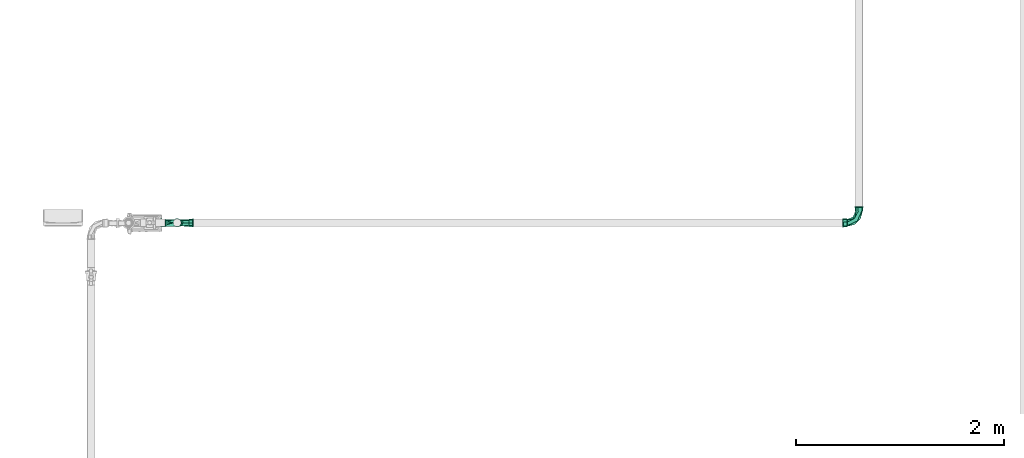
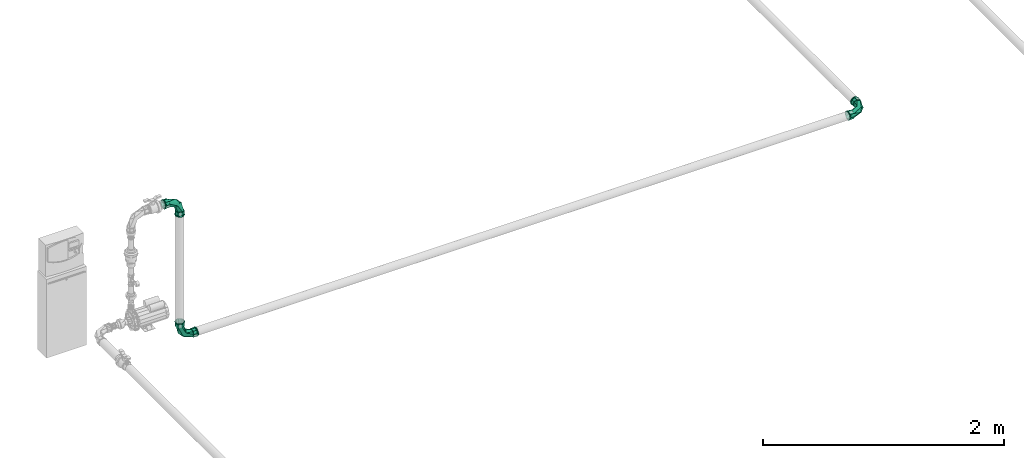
# One storey, part 72 of 166: 3 flow fittings.
"""IFC2X3 building model written with IfcOpenShell, lengths in metres."""

from ifc_helpers import new_model, entity, si_unit, converted_unit, direction, frame, origin, place, context, subcontext, project, spatial, faceted_brep, source, transform, mapped, material, type_object, type_shapes, element, save


model = new_model("IFC2X3")

# Units and contexts
model_context = context("Model", 3, precision=1e-05, world=origin(), true_north=direction((6.123233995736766e-17, 1.0)))
body_context = subcontext(model_context, "Body", "Model", "MODEL_VIEW")
ifc_project = project(units=[si_unit("LENGTHUNIT", "METRE"), converted_unit("PLANEANGLEUNIT", "DEGREE", entity("IfcPlaneAngleMeasure", 0.017453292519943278), si_unit("PLANEANGLEUNIT", "RADIAN"), dimensions=[0, 0, 0, 0, 0, 0, 0]), si_unit("AREAUNIT", "SQUARE_METRE")], contexts=[model_context])

# Site, building, storey
site_placement = place(None, origin())
site = spatial("IfcSite", under=ifc_project, at=site_placement, Name="Default", CompositionType="ELEMENT")
building_placement = place(site_placement, origin())
building = spatial("IfcBuilding", under=site, at=building_placement, Name="CASA DE ACOLHIDA PARA IDOSOS", CompositionType="ELEMENT")
storey_placement = place(building_placement, frame((0.0, 0.0, -1.7499999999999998)))
storey = spatial("IfcBuildingStorey", under=building, at=storey_placement, Name="IMPLANTAÇÃO DRENAGEM", CompositionType="ELEMENT", Elevation=-1.7499999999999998)

# Flow fittings
ifc_material = material(Name="PVC Marrom")
pipe_fitting_type = type_object("IfcPipeFittingType", Name="AF_Soldavel_Curva 45_90:Standard", PredefinedType="NOTDEFINED", material=ifc_material)
shared_shape = source(origin(), body_context, "Body", "Brep", [
    faceted_brep([(-0.1595599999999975, -0.01112921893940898, -0.041534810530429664), (-0.1595599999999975, -0.009705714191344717, -0.036222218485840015), (-0.1595599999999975, 0.00970571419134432, -0.03622221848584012), (-0.1595599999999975, -0.03723909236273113, -0.02149999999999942), (-0.1595599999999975, 0.011129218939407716, -0.041534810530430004), (-0.1595599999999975, -0.03247595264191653, -0.01874999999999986), (-0.1595599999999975, -0.037500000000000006, 0.0), (-0.1595599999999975, -0.043000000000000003, 0.0), (-0.1595599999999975, -0.032475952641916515, 0.018749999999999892), (-0.1595599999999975, -0.03723909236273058, 0.021499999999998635), (-0.1595599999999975, -0.009705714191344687, 0.03622221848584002), (-0.1595599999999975, -0.011129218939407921, 0.04153481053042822), (-0.1595599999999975, 0.00970571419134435, 0.03622221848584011), (-0.1595599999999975, 0.011129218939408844, 0.041534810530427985), (-0.1595599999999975, 0.03247595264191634, 0.018750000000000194), (-0.1595599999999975, 0.03723909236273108, 0.021499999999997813), (-0.1595599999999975, 0.043000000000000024, 0.0), (-0.1595599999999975, 0.037500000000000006, 0.0), (-0.1595599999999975, 0.03723909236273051, -0.021500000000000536), (-0.1595599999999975, 0.03247595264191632, -0.01875000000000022), (-0.1512599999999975, 0.043000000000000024, 0.0), (-0.1512599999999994, 0.03293946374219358, 0.027640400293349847), (-0.15126000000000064, 0.007465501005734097, 0.04234697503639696), (-0.1512599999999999, -0.032941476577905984, 0.027638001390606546), (-0.1512599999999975, -0.043000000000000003, 0.0), (-0.1512599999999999, -0.012737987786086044, 0.03499248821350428), (-0.15125999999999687, -0.03294147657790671, -0.027638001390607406), (-0.15125999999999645, -0.007468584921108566, -0.04234643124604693), (-0.1512599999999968, 0.03293946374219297, -0.027640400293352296), (-0.15125999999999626, 0.012735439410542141, -0.03499341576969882), (-0.14726000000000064, 0.006943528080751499, 0.03939273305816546), (-0.14725999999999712, -0.04, 0.0), (-0.14725999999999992, -0.0306445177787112, 0.02570823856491), (-0.14726000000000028, -0.01185049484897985, 0.03255048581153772), (-0.14725999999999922, 0.03064099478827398, 0.025712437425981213), (-0.14725999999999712, 0.04000000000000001, 0.0), (-0.14725999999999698, 0.030640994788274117, -0.025712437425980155), (-0.14725999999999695, 0.011846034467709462, -0.03255210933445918), (-0.14725999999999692, -0.030644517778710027, -0.02570823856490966), (-0.1472599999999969, -0.006948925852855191, -0.039391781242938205), (-0.11525999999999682, 0.04000000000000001, 0.0), (-0.1152599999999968, 0.03064034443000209, 0.025713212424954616), (-0.11525999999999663, 0.006941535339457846, 0.039393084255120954), (-0.1152599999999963, -0.030646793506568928, 0.025705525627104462), (-0.11525999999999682, -0.039999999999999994, 0.0), (-0.11525999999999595, -0.03064679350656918, -0.025705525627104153), (-0.11525999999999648, -0.006951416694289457, -0.03939134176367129), (-0.11525999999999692, 0.030640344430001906, -0.02571321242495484), (-0.11275999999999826, 0.02681594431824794, -0.022492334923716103), (-0.11275999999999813, -0.00607384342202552, -0.034468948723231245), (-0.1127599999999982, 0.03500000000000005, 0.0), (-0.1127599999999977, -0.026810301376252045, -0.02249906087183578), (-0.11275999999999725, -0.03500000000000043, 0.0), (-0.11276000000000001, -0.026810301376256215, 0.022499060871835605), (-0.11275999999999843, 0.0060824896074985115, 0.034467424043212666), (-0.11275999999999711, 0.026815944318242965, 0.022492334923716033), (-0.038879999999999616, -0.015203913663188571, 0.0), (-0.017106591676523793, 0.017106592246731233, 0.026797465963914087), (-0.006082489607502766, 0.11275999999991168, 0.0344674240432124), (-0.042993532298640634, 0.04299353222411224, 0.03203626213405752), (-0.05777537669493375, 0.05777537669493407, 0.0), (-0.0268159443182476, 0.1127599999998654, 0.02249233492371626), (0.015203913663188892, 0.03887999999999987, 0.0), (0.035000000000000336, 0.11275999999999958, 0.0), (0.026810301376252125, 0.11275999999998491, 0.022499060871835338), (-0.034999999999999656, 0.1127599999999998, 0.0), (-0.037770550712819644, 0.03777054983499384, -0.03435099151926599), (-0.05270496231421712, 0.052704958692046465, -0.021225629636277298), (-0.0268159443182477, 0.11275999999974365, -0.022492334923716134), (-0.01710659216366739, 0.01710659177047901, -0.02679746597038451), (0.0060738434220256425, 0.11275999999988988, -0.03446894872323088), (0.02681030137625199, 0.11275999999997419, -0.022499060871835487), (0.03064034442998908, 0.115259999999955, -0.025713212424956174), (0.03999999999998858, 0.11525999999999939, 0.0), (0.006941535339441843, 0.11525999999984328, -0.03939308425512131), (-0.04000000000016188, 0.11525999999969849, 0.0), (-0.030646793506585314, 0.11525999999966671, -0.02570552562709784), (-0.03064679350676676, 0.1152600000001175, 0.02570552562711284), (-0.006951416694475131, 0.11526000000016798, 0.039391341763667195), (0.030640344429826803, 0.1152600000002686, 0.025713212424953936), (0.03999999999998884, 0.14725999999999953, 0.0), (0.030640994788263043, 0.14726000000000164, 0.02571243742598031), (0.011846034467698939, 0.14726000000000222, 0.03255210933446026), (-0.006948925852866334, 0.14726000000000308, 0.039391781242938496), (-0.03064451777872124, 0.1472600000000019, 0.02570823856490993), (-0.04000000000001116, 0.14725999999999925, 0.0), (-0.030644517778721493, 0.14726000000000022, -0.025708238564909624), (-0.011850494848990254, 0.14726000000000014, -0.03255048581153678), (0.006943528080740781, 0.14725999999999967, -0.03939273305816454), (0.030640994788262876, 0.14725999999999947, -0.025712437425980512), (-0.03293946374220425, 0.15126000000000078, 0.02764040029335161), (-0.043000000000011, 0.1512599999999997, 0.0), (-0.007465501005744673, 0.15126000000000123, 0.042346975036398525), (0.032941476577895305, 0.15126000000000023, 0.027638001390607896), (0.012737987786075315, 0.15126000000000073, 0.03499248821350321), (0.04299999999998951, 0.1512599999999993, 0.0), (0.03294147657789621, 0.15126000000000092, -0.027638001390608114), (0.0074685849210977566, 0.1512600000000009, -0.042346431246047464), (-0.03293946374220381, 0.15126000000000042, -0.0276404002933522), (-0.012735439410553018, 0.15126000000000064, -0.03499341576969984), (-0.011129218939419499, 0.1595599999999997, -0.04153481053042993), (-0.009705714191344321, 0.1595599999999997, -0.03622221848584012), (0.009705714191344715, 0.1595599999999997, -0.036222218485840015), (-0.03723909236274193, 0.1595599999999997, -0.02149999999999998), (0.011129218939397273, 0.1595599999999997, -0.04153481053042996), (-0.03247595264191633, 0.1595599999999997, -0.01875000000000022), (-0.037500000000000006, 0.1595599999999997, 0.0), (-0.04300000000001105, 0.1595599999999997, 0.0), (-0.03247595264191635, 0.1595599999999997, 0.018750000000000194), (-0.03723909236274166, 0.1595599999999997, 0.02150000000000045), (-0.009705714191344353, 0.1595599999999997, 0.03622221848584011), (-0.011129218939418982, 0.1595599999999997, 0.041534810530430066), (0.009705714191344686, 0.1595599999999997, 0.03622221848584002), (0.01112921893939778, 0.1595599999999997, 0.04153481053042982), (0.03247595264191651, 0.1595599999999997, 0.018749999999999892), (0.03723909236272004, 0.1595599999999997, 0.02149999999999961), (0.04299999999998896, 0.1595599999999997, 0.0), (0.0375, 0.1595599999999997, 0.0), (0.03723909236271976, 0.1595599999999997, -0.0215000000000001), (0.03247595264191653, 0.1595599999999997, -0.01874999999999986), (-0.11525999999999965, 0.009705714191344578, -0.036222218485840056), (-0.11525999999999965, -0.009705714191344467, -0.036222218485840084), (-0.11525999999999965, -0.032475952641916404, -0.018750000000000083), (-0.11525999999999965, -0.037500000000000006, 0.0), (-0.11525999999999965, -0.03247595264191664, 0.018749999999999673), (-0.11525999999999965, -0.009705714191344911, 0.03622221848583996), (-0.11525999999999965, 0.009705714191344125, 0.036222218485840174), (-0.11525999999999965, 0.032475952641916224, 0.01875000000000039), (-0.11525999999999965, 0.037500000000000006, 0.0), (-0.11525999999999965, 0.03247595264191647, -0.018749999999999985), (0.009705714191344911, 0.11526000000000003, 0.03622221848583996), (-0.009705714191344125, 0.11526000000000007, 0.036222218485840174), (-0.009705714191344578, 0.11526000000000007, -0.036222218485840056), (0.009705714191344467, 0.11526000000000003, -0.036222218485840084), (-0.03247595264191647, 0.1152600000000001, -0.018749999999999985), (-0.037500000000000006, 0.11526000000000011, 0.0), (-0.032475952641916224, 0.1152600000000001, 0.01875000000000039), (0.03247595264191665, 0.11526, 0.01874999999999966), (0.037500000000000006, 0.11525999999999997, 0.0), (0.032475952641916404, 0.11526, -0.018750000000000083)], [[[0, 1, 2]], [[1, 0, 3]], [[2, 4, 0]], [[3, 5, 1]], [[3, 6, 5]], [[6, 3, 7]], [[8, 6, 7]], [[8, 7, 9]], [[9, 10, 8]], [[9, 11, 10]], [[10, 11, 12]], [[13, 12, 11]], [[13, 14, 12]], [[14, 13, 15]], [[16, 14, 15]], [[17, 14, 16]], [[18, 17, 16]], [[18, 19, 17]], [[19, 18, 4]], [[4, 2, 19]], [[16, 15, 20]], [[15, 21, 20]], [[21, 15, 13]], [[21, 13, 22]], [[23, 11, 9]], [[24, 9, 7]], [[11, 23, 25, 22]], [[23, 9, 24]], [[11, 22, 13]], [[7, 3, 24]], [[3, 26, 24]], [[26, 3, 0]], [[26, 0, 27]], [[28, 4, 18]], [[20, 18, 16]], [[4, 28, 29, 27]], [[28, 18, 20]], [[4, 27, 0]], [[25, 30, 22]], [[31, 32, 24]], [[24, 32, 23]], [[23, 33, 25]], [[34, 35, 21]], [[23, 32, 33]], [[21, 22, 34]], [[20, 21, 35]], [[30, 25, 33]], [[34, 22, 30]], [[35, 36, 28]], [[28, 20, 35]], [[36, 29, 28]], [[36, 37, 29]], [[37, 27, 29]], [[38, 31, 24]], [[38, 26, 39]], [[26, 38, 24]], [[27, 37, 39]], [[39, 26, 27]], [[35, 34, 40]], [[34, 41, 40]], [[41, 34, 30]], [[41, 30, 42]], [[32, 31, 43]], [[32, 43, 42]], [[43, 31, 44]], [[42, 30, 33, 32]], [[31, 38, 45]], [[31, 45, 44]], [[45, 38, 46]], [[38, 39, 46]], [[47, 39, 37, 36]], [[36, 40, 47]], [[40, 36, 35]], [[39, 47, 46]], [[48, 49, 47]], [[50, 48, 40]], [[40, 48, 47]], [[49, 46, 47]], [[51, 52, 45]], [[45, 46, 51]], [[44, 45, 52]], [[51, 46, 49]], [[52, 53, 43]], [[43, 44, 52]], [[42, 43, 53]], [[53, 54, 42]], [[55, 50, 40]], [[55, 41, 54]], [[41, 55, 40]], [[54, 41, 42]], [[52, 56, 53]], [[53, 57, 54]], [[57, 58, 59]], [[59, 55, 54]], [[50, 55, 60]], [[58, 61, 59]], [[57, 56, 62]], [[57, 59, 54]], [[62, 63, 64]], [[57, 53, 56]], [[64, 58, 57]], [[65, 60, 61]], [[60, 55, 59]], [[60, 59, 61]], [[62, 64, 57]], [[66, 67, 68]], [[69, 66, 70]], [[62, 69, 71]], [[52, 51, 56]], [[56, 51, 69]], [[69, 49, 66]], [[50, 60, 67]], [[65, 68, 67]], [[66, 48, 67]], [[49, 48, 66]], [[70, 66, 68]], [[62, 56, 69]], [[70, 71, 69]], [[71, 63, 62]], [[51, 49, 69]], [[60, 65, 67]], [[50, 67, 48]], [[63, 71, 72, 73]], [[74, 72, 71, 70]], [[68, 65, 75, 76]], [[68, 76, 74, 70]], [[65, 61, 77, 75]], [[78, 77, 61, 58]], [[64, 63, 73, 79]], [[64, 79, 78, 58]], [[80, 81, 73]], [[81, 79, 73]], [[79, 81, 82, 83]], [[79, 83, 78]], [[84, 85, 77]], [[84, 77, 78]], [[77, 85, 75]], [[84, 78, 83]], [[85, 86, 76]], [[85, 76, 75]], [[76, 86, 74]], [[74, 86, 87, 88]], [[88, 89, 72]], [[89, 73, 72]], [[73, 89, 80]], [[88, 72, 74]], [[84, 83, 90]], [[85, 84, 91]], [[91, 84, 90]], [[83, 92, 90]], [[81, 80, 93]], [[81, 93, 94]], [[82, 92, 83]], [[95, 93, 80]], [[92, 82, 94]], [[82, 81, 94]], [[80, 89, 96]], [[96, 95, 80]], [[97, 96, 89]], [[98, 99, 87]], [[89, 88, 97]], [[86, 85, 91]], [[98, 87, 86]], [[98, 86, 91]], [[88, 99, 97]], [[99, 88, 87]], [[100, 101, 102]], [[101, 100, 103]], [[102, 104, 100]], [[103, 105, 101]], [[103, 106, 105]], [[106, 103, 107]], [[108, 106, 107]], [[108, 107, 109]], [[109, 110, 108]], [[109, 111, 110]], [[110, 111, 112]], [[113, 112, 111]], [[113, 114, 112]], [[114, 113, 115]], [[116, 114, 115]], [[117, 114, 116]], [[118, 117, 116]], [[118, 119, 117]], [[119, 118, 104]], [[104, 102, 119]], [[116, 115, 95]], [[115, 93, 95]], [[93, 115, 113]], [[113, 92, 94, 93]], [[90, 111, 109]], [[91, 109, 107]], [[111, 90, 92]], [[90, 109, 91]], [[111, 92, 113]], [[107, 103, 91]], [[103, 98, 91]], [[98, 103, 100]], [[100, 97, 99, 98]], [[96, 104, 118]], [[95, 118, 116]], [[104, 96, 97]], [[96, 118, 95]], [[104, 97, 100]], [[120, 121, 122, 123, 124, 125, 126, 127, 128, 129]], [[124, 123, 6, 8]], [[125, 124, 8, 10]], [[10, 12, 126, 125]], [[130, 131, 110, 112]], [[127, 126, 12, 14]], [[128, 127, 14, 17]], [[129, 128, 17, 19]], [[120, 129, 19, 2]], [[2, 1, 121, 120]], [[132, 133, 102, 101]], [[122, 121, 1, 5]], [[123, 122, 5, 6]], [[132, 134, 135, 136, 131, 130, 137, 138, 139, 133]], [[114, 117, 138, 137]], [[112, 114, 137, 130]], [[108, 110, 131, 136]], [[106, 108, 136, 135]], [[105, 106, 135, 134]], [[101, 105, 134, 132]], [[119, 102, 133, 139]], [[117, 119, 139, 138]]]),
])
type_shapes(pipe_fitting_type, [shared_shape])
for number, where, z_axis, x_axis, name in (
    (1, (-60.30326299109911, 7.052060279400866, 1.1999999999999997), (0.0, 1.0, 0.0), (1.0, 0.0, 0.0), "AF_Soldavel_Curva 45_90:Standard"),
    (2, (-60.30326299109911, 7.052060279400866, -0.19999999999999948), (0.0, -1.0, 0.0), (0.0, 0.0, -1.0), "AF_Soldavel_Curva 45_90:Standard"),
):
    element("IfcFlowFitting", number, at=place(storey_placement, frame(where, z_axis=z_axis, x_axis=x_axis)), inside=storey, type_object=pipe_fitting_type, material=ifc_material, Name=name, ObjectType="AF_Soldavel_Curva 45_90:Standard", context=body_context, shape_type="MappedRepresentation", body=[
        mapped(shared_shape, transform((0.0, 0.0, 0.0), scale=1.0)),
    ])
flow_fitting_placement = place(storey_placement, frame((-53.73245178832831, 7.052060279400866, -0.19999999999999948)))
element("IfcFlowFitting", 3, at=flow_fitting_placement, inside=storey, type_object=pipe_fitting_type, material=ifc_material, Name="AF_Soldavel_Curva 45_90:Standard", ObjectType="AF_Soldavel_Curva 45_90:Standard", context=body_context, shape_type="MappedRepresentation", body=[
    mapped(shared_shape, transform((0.0, 0.0, 0.0), scale=1.0)),
])

save(model, "model.ifc")
